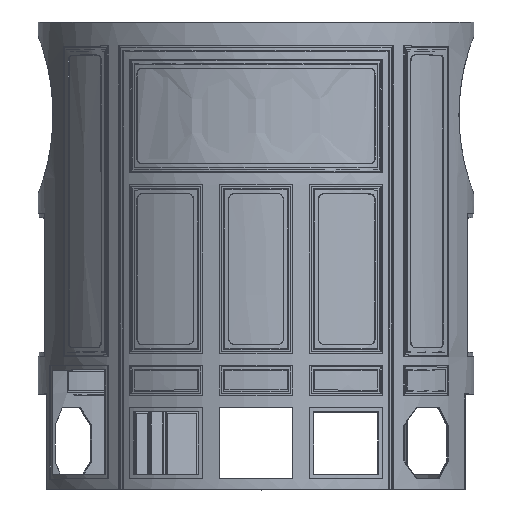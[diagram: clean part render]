
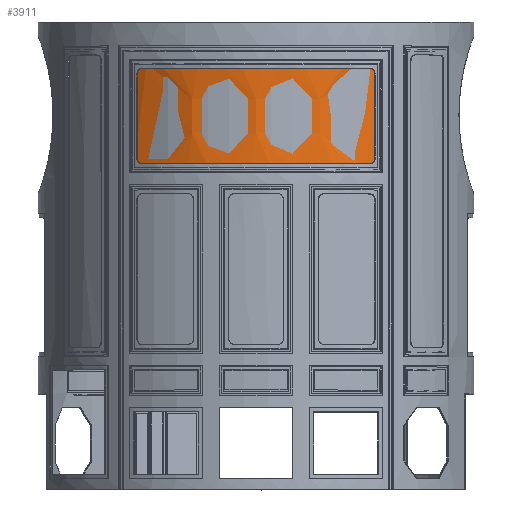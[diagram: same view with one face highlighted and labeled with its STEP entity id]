
A CAD part, top view. The second image highlights one B-rep face of the part: STEP entity #3911.
In plain terms, the highlighted free-form (B-spline) face has degree [3, 3] with [7, 4] control points.
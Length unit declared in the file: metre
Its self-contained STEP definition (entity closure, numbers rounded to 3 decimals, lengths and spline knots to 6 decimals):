
#3911=ADVANCED_FACE('',(#5302),#5303,.T.);
#5302=FACE_OUTER_BOUND('',#24473,.T.);
#5303=B_SPLINE_SURFACE_WITH_KNOTS('',3,3,((#24474,#24475,#24476,#24477),(#24478,#24479,#24480,#24481),(#24482,#24483,#24484,#24485),(#24486,#24487,#24488,#24489),(#24490,#24491,#24492,#24493),(#24494,#24495,#24496,#24497),(#24498,#24499,#24500,#24501)),.UNSPECIFIED.,.F.,.F.,.F.,(4,1,1,1,4),(4,4),(-12.5,-9.78125,-7.0625,-4.34375,-1.625),(8.5,12.8125),.UNSPECIFIED.);
#24473=EDGE_LOOP('',(#31446,#31447,#31448,#31449));
#24474=CARTESIAN_POINT('',(0.0,0.043213,0.0));
#24475=CARTESIAN_POINT('',(0.0,0.043213,0.036513));
#24476=CARTESIAN_POINT('',(0.0,0.043213,0.073025));
#24477=CARTESIAN_POINT('',(0.0,0.043213,0.109538));
#24478=CARTESIAN_POINT('',(0.018964,0.030344,0.0));
#24479=CARTESIAN_POINT('',(0.018964,0.030344,0.036513));
#24480=CARTESIAN_POINT('',(0.018964,0.030344,0.073025));
#24481=CARTESIAN_POINT('',(0.018964,0.030344,0.109538));
#24482=CARTESIAN_POINT('',(0.060763,0.010324,0.0));
#24483=CARTESIAN_POINT('',(0.060763,0.010324,0.036513));
#24484=CARTESIAN_POINT('',(0.060763,0.010324,0.073025));
#24485=CARTESIAN_POINT('',(0.060763,0.010324,0.109538));
#24486=CARTESIAN_POINT('',(0.129513,0.0,0.0));
#24487=CARTESIAN_POINT('',(0.129513,0.0,0.036513));
#24488=CARTESIAN_POINT('',(0.129513,0.0,0.073025));
#24489=CARTESIAN_POINT('',(0.129513,0.0,0.109538));
#24490=CARTESIAN_POINT('',(0.198261,0.010323,0.0));
#24491=CARTESIAN_POINT('',(0.198261,0.010323,0.036513));
#24492=CARTESIAN_POINT('',(0.198261,0.010323,0.073025));
#24493=CARTESIAN_POINT('',(0.198261,0.010323,0.109538));
#24494=CARTESIAN_POINT('',(0.240061,0.030344,0.0));
#24495=CARTESIAN_POINT('',(0.240061,0.030344,0.036513));
#24496=CARTESIAN_POINT('',(0.240061,0.030344,0.073025));
#24497=CARTESIAN_POINT('',(0.240061,0.030344,0.109538));
#24498=CARTESIAN_POINT('',(0.259025,0.043212,0.0));
#24499=CARTESIAN_POINT('',(0.259025,0.043212,0.036513));
#24500=CARTESIAN_POINT('',(0.259025,0.043212,0.073025));
#24501=CARTESIAN_POINT('',(0.259025,0.043212,0.109538));
#31446=ORIENTED_EDGE('',*,*,#36079,.T.);
#31447=ORIENTED_EDGE('',*,*,#36080,.T.);
#31448=ORIENTED_EDGE('',*,*,#36078,.T.);
#31449=ORIENTED_EDGE('',*,*,#36081,.T.);
#36078=EDGE_CURVE('',#38975,#38980,#38982,.T.);
#36079=EDGE_CURVE('',#38983,#38984,#38985,.T.);
#36080=EDGE_CURVE('',#38984,#38975,#38986,.T.);
#36081=EDGE_CURVE('',#38980,#38983,#38987,.T.);
#38975=VERTEX_POINT('',#57285);
#38980=VERTEX_POINT('',#57300);
#38982=B_SPLINE_CURVE_WITH_KNOTS('',3,(#57303,#57304,#57305,#57306,#57307,#57308,#57309),.UNSPECIFIED.,.F.,.F.,(4,1,1,1,4),(1.625,4.34375,7.0625,9.78125,12.5),.UNSPECIFIED.);
#38983=VERTEX_POINT('',#57310);
#38984=VERTEX_POINT('',#57311);
#38985=B_SPLINE_CURVE_WITH_KNOTS('',3,(#57312,#57313,#57314,#57315,#57316,#57317,#57318),.UNSPECIFIED.,.F.,.F.,(4,1,1,1,4),(-12.5,-9.78125,-7.0625,-4.34375,-1.625),.UNSPECIFIED.);
#38986=LINE('',#57319,#57320);
#38987=LINE('',#57321,#57322);
#57285=CARTESIAN_POINT('',(0.259025,0.043212,0.109538));
#57300=CARTESIAN_POINT('',(0.0,0.043213,0.109538));
#57303=CARTESIAN_POINT('',(0.259025,0.043212,0.109538));
#57304=CARTESIAN_POINT('',(0.240061,0.030344,0.109538));
#57305=CARTESIAN_POINT('',(0.198261,0.010323,0.109538));
#57306=CARTESIAN_POINT('',(0.129513,0.0,0.109538));
#57307=CARTESIAN_POINT('',(0.060763,0.010324,0.109538));
#57308=CARTESIAN_POINT('',(0.018964,0.030344,0.109538));
#57309=CARTESIAN_POINT('',(0.0,0.043213,0.109538));
#57310=CARTESIAN_POINT('',(0.0,0.043213,0.0));
#57311=CARTESIAN_POINT('',(0.259025,0.043212,0.0));
#57312=CARTESIAN_POINT('',(0.0,0.043213,0.0));
#57313=CARTESIAN_POINT('',(0.018964,0.030344,0.0));
#57314=CARTESIAN_POINT('',(0.060763,0.010324,0.0));
#57315=CARTESIAN_POINT('',(0.129513,0.0,0.0));
#57316=CARTESIAN_POINT('',(0.198261,0.010323,0.0));
#57317=CARTESIAN_POINT('',(0.240061,0.030344,0.0));
#57318=CARTESIAN_POINT('',(0.259025,0.043212,0.0));
#57319=CARTESIAN_POINT('',(0.259025,0.043212,0.054769));
#57320=VECTOR('',#63023,1.0);
#57321=CARTESIAN_POINT('',(0.0,0.043213,0.054769));
#57322=VECTOR('',#63024,1.0);
#63023=DIRECTION('',(0.,0.0,1.0));
#63024=DIRECTION('',(0.0,0.0,-1.0));
